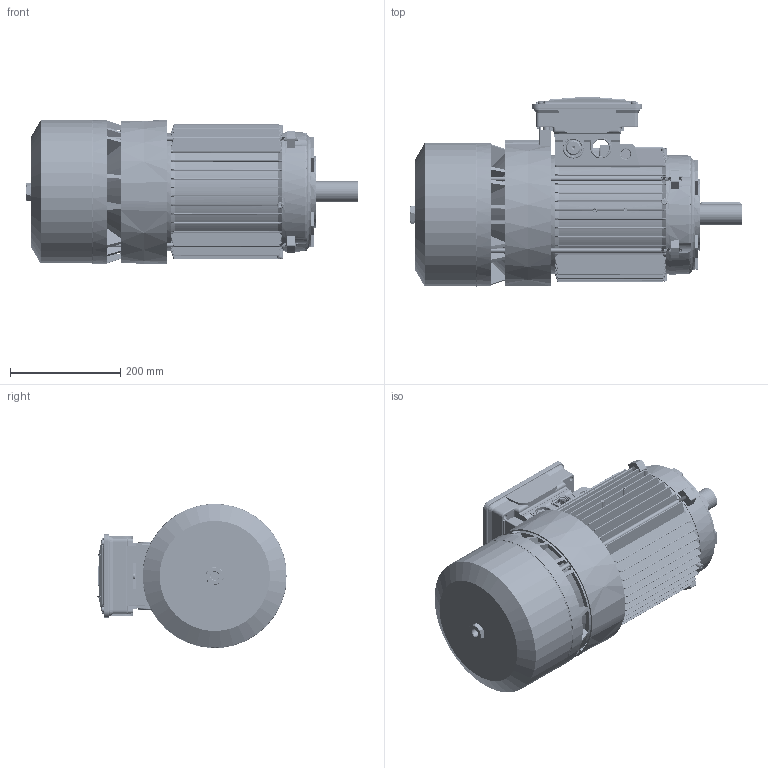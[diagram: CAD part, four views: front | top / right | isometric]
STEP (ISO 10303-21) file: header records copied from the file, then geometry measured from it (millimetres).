
FILE_DESCRIPTION (( 'STEP AP214' ), '1' );
FILE_NAME ('M02IC0010.STEP', '2019-03-08T13:17:51', ( '' ), ( '' ), 'SwSTEP 2.0', 'SolidWorks 2018', '' );
FILE_SCHEMA (( 'AUTOMOTIVE_DESIGN' ));
Length unit declared in the file: millimetre
Products named in the file (20): Scudo Lato Freno P1 BA 132; Vite M5x20; Chiavetta 132; Coperchio Scatola Morsettiera BA 132 - DGBR0002; Albero BA 132 S; Carcassa 132 S B5; Guarnizione Coperchio Morsettiera Doppia Scatola BA 132 - DGBS0102; Piastra stringi Pipetta BA 132 - DGBA0210 bis; M02IC0010; Guarnizione Basetta BA 132 - DGBU0202; Vite Autofilettante Testa Bombata 4,8x9,5; Pipetta passafilo; Scatola per Morsettiera BA 132 - DGBQ0102; O-ring freno BA 132; Tirante BA 132 S - DGCQ0003; Scudo a Flangia B14 BA 132; Vite a Testa Esagona 20 MB gr. 132-200 - DGAS0094; Cuffia serie BA 132; Convogliatore con Pista d''attrito P2 BA 132; Scatola BA 132 - Completa
Assembly tree (26 placements, depth 3):
  M02IC0010
    Carcassa 132 S B5
    Albero BA 132 S
    Chiavetta 132
    Scudo Lato Freno P1 BA 132
    Convogliatore con Pista d''attrito P2 BA 132
    Cuffia serie BA 132
    Vite a Testa Esagona 20 MB gr. 132-200 - DGAS0094
    Scudo a Flangia B14 BA 132
    Tirante BA 132 S - DGCQ0003  x4
    O-ring freno BA 132
    Scatola BA 132 - Completa
      Scatola per Morsettiera BA 132 - DGBQ0102
      Pipetta passafilo  x2
      Vite Autofilettante Testa Bombata 4,8x9,5
      Guarnizione Basetta BA 132 - DGBU0202
      Piastra stringi Pipetta BA 132 - DGBA0210 bis
      Guarnizione Coperchio Morsettiera Doppia Scatola BA 132 - DGBS0102
      Coperchio Scatola Morsettiera BA 132 - DGBR0002
      Vite M5x20  x4
Bounding box: 602.5 x 343.39 x 261.48 mm (x, y, z)
Volume: 5115406.4 mm3; surface area: 2003049.1 mm2
Topology: 25 solids, 25 shells, 3827 faces, 10241 edges, 6437 vertices
Faces by surface type: cylinder 1565, plane 1022, cone 510, bspline 386, torus 332, sphere 12
Entity records: 143340 total; most frequent: CARTESIAN_POINT 68557, ORIENTED_EDGE 16362, DIRECTION 14205, EDGE_CURVE 8181, AXIS2_PLACEMENT_3D 5485, VERTEX_POINT 5144, EDGE_LOOP 3321, VECTOR 3235
